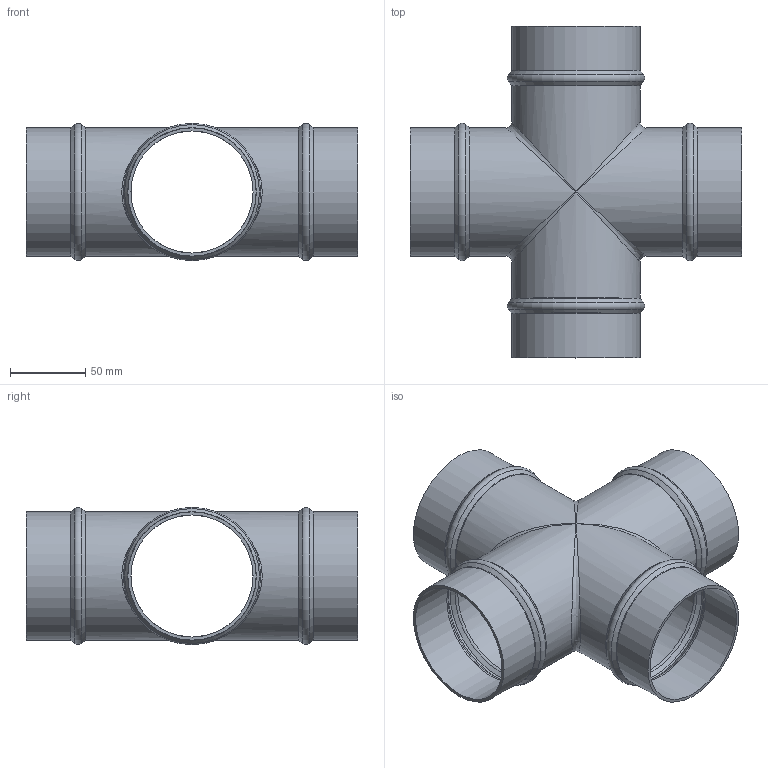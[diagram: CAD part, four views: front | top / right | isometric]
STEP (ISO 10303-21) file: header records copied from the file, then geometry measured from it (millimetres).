
FILE_DESCRIPTION(/* description */ (''),/* implementation_level */ '2;1');
FILE_NAME(/* name */ '30214070001.stp',/* time_stamp */ '2024-08-28T13:19:11+08:00',/* author */ (''),/* organization */ (''),/* preprocessor_version */ 'ST-DEVELOPER v14',/* originating_system */ 'SIEMENS PLM Software NX 8.0',/* authorisation */ '');
FILE_SCHEMA (('CONFIG_CONTROL_DESIGN'));
Length unit declared in the file: millimetre
Products named in the file (1): 30214070001
Bounding box: 220 x 220 x 91 mm (x, y, z)
Volume: 179935.1 mm3; surface area: 180961.9 mm2
Topology: 1 solids, 1 shells, 64 faces, 136 edges, 64 vertices
Faces by surface type: torus 24, cylinder 16, cone 16, plane 4, bspline 4
Full cylindrical faces by diameter (mm): 81 x8, 85 x8
Entity records: 1584 total; most frequent: CARTESIAN_POINT 405, DIRECTION 258, ORIENTED_EDGE 136, AXIS2_PLACEMENT_3D 129, EDGE_LOOP 124, FACE_BOUND 120, EDGE_CURVE 68, ADVANCED_FACE 64
